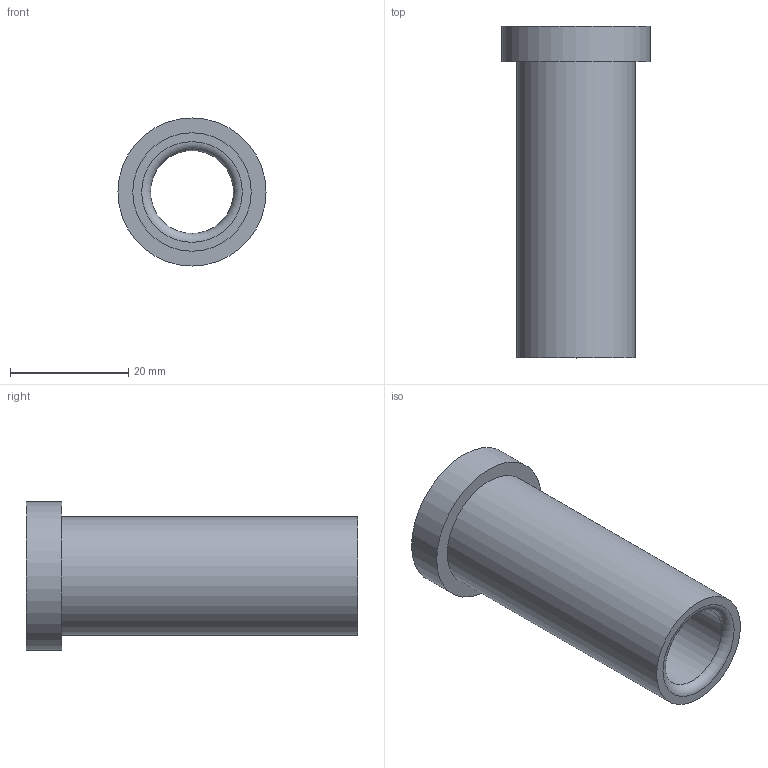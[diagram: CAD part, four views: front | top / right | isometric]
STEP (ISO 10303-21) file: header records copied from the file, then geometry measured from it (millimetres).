
FILE_DESCRIPTION(/* description */ ('STEP AP214'),/* implementation_level */ '2;1');
FILE_NAME(/* name */ '03_12_17842',/* time_stamp */ '2023-06-15T11:35:25+02:00',/* author */ ('License CC BY-ND 4.0'),/* organization */ ('CADENAS'),/* preprocessor_version */ 'ST-DEVELOPER v19.3',/* originating_system */ 'PARTsolutions',/* authorisation */ ' ');
FILE_SCHEMA (('AUTOMOTIVE_DESIGN {1 0 10303 214 3 1 1}'));
Length unit declared in the file: millimetre
Products named in the file (1): VA_Bushing_17842
Bounding box: 25 x 56 x 25 mm (x, y, z)
Volume: 9836.3 mm3; surface area: 6715 mm2
Topology: 1 solids, 1 shells, 10 faces, 16 edges, 10 vertices
Faces by surface type: cylinder 4, plane 4, torus 2
Full cylindrical faces by diameter (mm): 14 x1, 14.6 x1, 20 x1, 25 x1
Entity records: 302 total; most frequent: DIRECTION 42, CARTESIAN_POINT 31, AXIS2_PLACEMENT_3D 21, ORIENTED_EDGE 20, EDGE_LOOP 20, FACE_BOUND 20, EDGE_CURVE 10, VERTEX_POINT 10
